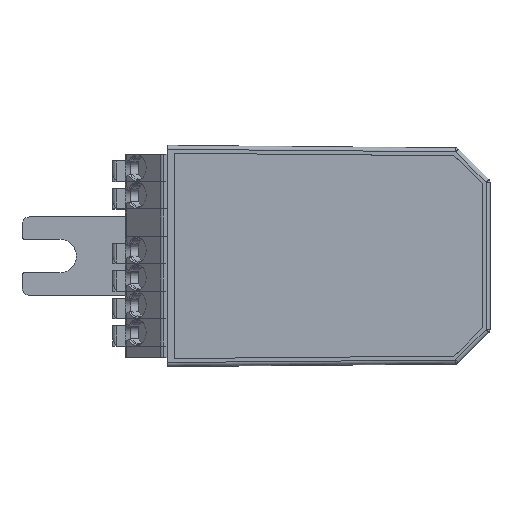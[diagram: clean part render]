
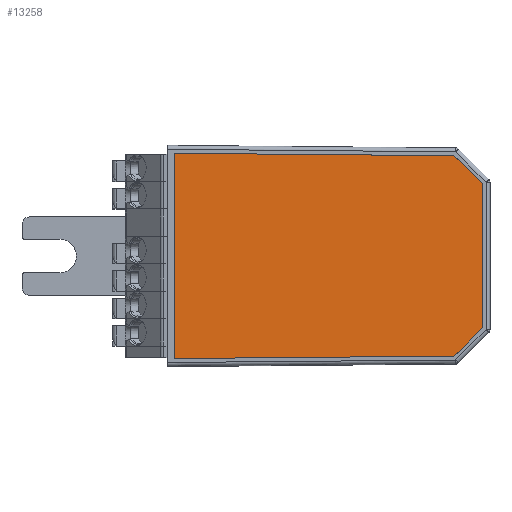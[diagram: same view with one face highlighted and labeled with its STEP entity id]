
A CAD part, top view. The second image highlights one B-rep face of the part: STEP entity #13258.
In plain terms, the highlighted planar face has unit normal (0.009, 0, 1).
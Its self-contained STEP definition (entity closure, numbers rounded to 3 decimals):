
#3469=DIRECTION('',(0.,1.,0.));
#3470=VECTOR('',#3469,18.372);
#3471=CARTESIAN_POINT('',(53.899,-9.186,14.099));
#3472=LINE('',#3471,#3470);
#3477=DIRECTION('',(0.707,0.707,-0.006));
#3478=VECTOR('',#3477,5.084);
#3479=CARTESIAN_POINT('',(50.304,-12.781,14.131));
#3480=LINE('',#3479,#3478);
#3485=DIRECTION('',(1.,0.009,-0.009));
#3486=VECTOR('',#3485,35.608);
#3487=CARTESIAN_POINT('',(14.699,-13.091,14.441));
#3488=LINE('',#3487,#3486);
#3493=DIRECTION('',(0.,-1.,0.));
#3494=VECTOR('',#3493,26.182);
#3495=CARTESIAN_POINT('',(14.699,13.091,14.441));
#3496=LINE('',#3495,#3494);
#3501=DIRECTION('',(-1.,0.009,0.009));
#3502=VECTOR('',#3501,35.608);
#3503=CARTESIAN_POINT('',(50.304,12.781,14.131));
#3504=LINE('',#3503,#3502);
#3509=DIRECTION('',(-0.707,0.707,0.006));
#3510=VECTOR('',#3509,5.084);
#3511=CARTESIAN_POINT('',(53.899,9.186,14.099));
#3512=LINE('',#3511,#3510);
#3616=CARTESIAN_POINT('',(53.899,-9.186,14.099));
#3617=VERTEX_POINT('',#3616);
#3618=CARTESIAN_POINT('',(53.899,9.186,14.099));
#3619=VERTEX_POINT('',#3618);
#3620=CARTESIAN_POINT('',(50.304,-12.781,14.131));
#3621=VERTEX_POINT('',#3620);
#3622=CARTESIAN_POINT('',(14.699,-13.091,14.441));
#3623=VERTEX_POINT('',#3622);
#3624=CARTESIAN_POINT('',(14.699,13.091,14.441));
#3625=VERTEX_POINT('',#3624);
#3626=CARTESIAN_POINT('',(50.304,12.781,14.131));
#3627=VERTEX_POINT('',#3626);
#13245=CARTESIAN_POINT('',(53.899,12.749,14.099));
#13246=DIRECTION('',(0.009,0.,1.));
#13247=DIRECTION('',(1.,0.,-0.009));
#13248=AXIS2_PLACEMENT_3D('',#13245,#13246,#13247);
#13249=PLANE('',#13248);
#13250=ORIENTED_EDGE('',*,*,#13169,.F.);
#13251=ORIENTED_EDGE('',*,*,#13184,.F.);
#13252=ORIENTED_EDGE('',*,*,#13198,.F.);
#13253=ORIENTED_EDGE('',*,*,#13212,.F.);
#13254=ORIENTED_EDGE('',*,*,#13226,.F.);
#13255=ORIENTED_EDGE('',*,*,#13239,.F.);
#13256=EDGE_LOOP('',(#13250,#13251,#13252,#13253,#13254,#13255));
#13257=FACE_OUTER_BOUND('',#13256,.F.);
#13258=ADVANCED_FACE('',(#13257),#13249,.T.);
#13169=EDGE_CURVE('',#3617,#3619,#3472,.T.);
#13184=EDGE_CURVE('',#3621,#3617,#3480,.T.);
#13198=EDGE_CURVE('',#3623,#3621,#3488,.T.);
#13212=EDGE_CURVE('',#3625,#3623,#3496,.T.);
#13226=EDGE_CURVE('',#3627,#3625,#3504,.T.);
#13239=EDGE_CURVE('',#3619,#3627,#3512,.T.);
